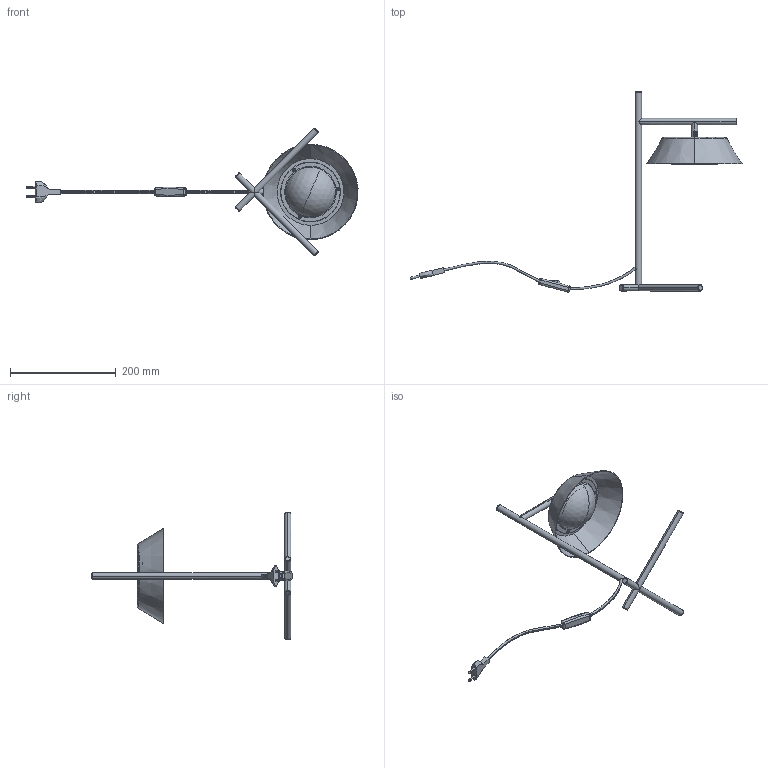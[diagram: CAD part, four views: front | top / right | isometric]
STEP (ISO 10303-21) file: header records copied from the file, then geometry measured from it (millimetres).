
FILE_DESCRIPTION (( 'STEP AP203' ), '1' );
FILE_NAME ('Sobremesa con pata.STEP', '2025-04-04T11:38:20', ( '' ), ( '' ), 'SwSTEP 2.0', 'SolidWorks 2021', '' );
FILE_SCHEMA (( 'CONFIG_CONTROL_DESIGN' ));
Length unit declared in the file: millimetre
Products named in the file (1): Sobremesa con pata
Bounding box: 627.14 x 378.06 x 241.77 mm (x, y, z)
Volume: 190673.3 mm3; surface area: 202747.9 mm2
Topology: 6 solids, 6 shells, 269 faces, 640 edges, 390 vertices
Faces by surface type: cylinder 112, plane 69, torus 36, bspline 26, sphere 16, cone 10
Entity records: 14197 total; most frequent: CARTESIAN_POINT 8206, ORIENTED_EDGE 1264, DIRECTION 1206, EDGE_CURVE 632, AXIS2_PLACEMENT_3D 495, VERTEX_POINT 386, EDGE_LOOP 316, FACE_OUTER_BOUND 269
